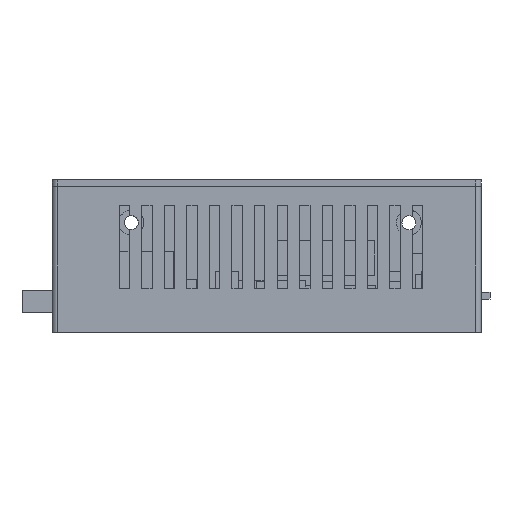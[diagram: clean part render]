
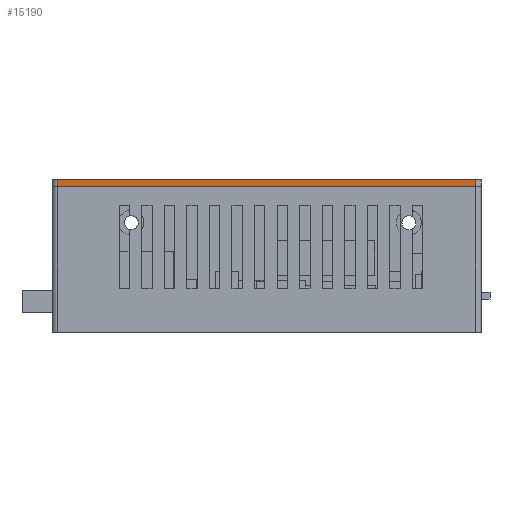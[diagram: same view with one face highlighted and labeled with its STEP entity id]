
A CAD part, left-side view. The second image highlights one B-rep face of the part: STEP entity #15190.
In plain terms, the highlighted planar face has unit normal (-1, 0, 0).
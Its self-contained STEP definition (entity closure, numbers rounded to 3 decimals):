
#12271 = PLANE('',#12272);
#12272 = AXIS2_PLACEMENT_3D('',#12273,#12274,#12275);
#12273 = CARTESIAN_POINT('',(-3.4,-120.8,32.4));
#12274 = DIRECTION('',(0.,0.,1.));
#12275 = DIRECTION('',(1.,0.,0.));
#12433 = EDGE_CURVE('',#12434,#12436,#12438,.T.);
#12434 = VERTEX_POINT('',#12435);
#12435 = CARTESIAN_POINT('',(-3.4,-119.3,32.4));
#12436 = VERTEX_POINT('',#12437);
#12437 = CARTESIAN_POINT('',(-3.4,1.3,32.4));
#12438 = SURFACE_CURVE('',#12439,(#12443,#12450),.PCURVE_S1.);
#12439 = LINE('',#12440,#12441);
#12440 = CARTESIAN_POINT('',(-3.4,-120.8,32.4));
#12441 = VECTOR('',#12442,1.);
#12442 = DIRECTION('',(0.,1.,0.));
#12443 = PCURVE('',#12271,#12444);
#12444 = DEFINITIONAL_REPRESENTATION('',(#12445),#12449);
#12445 = LINE('',#12446,#12447);
#12446 = CARTESIAN_POINT('',(0.,0.));
#12447 = VECTOR('',#12448,1.);
#12448 = DIRECTION('',(0.,1.));
#12449 = ( GEOMETRIC_REPRESENTATION_CONTEXT(2) 
PARAMETRIC_REPRESENTATION_CONTEXT() REPRESENTATION_CONTEXT('2D SPACE',''
  ) );
#12450 = PCURVE('',#12451,#12456);
#12451 = PLANE('',#12452);
#12452 = AXIS2_PLACEMENT_3D('',#12453,#12454,#12455);
#12453 = CARTESIAN_POINT('',(-3.4,-120.8,32.4));
#12454 = DIRECTION('',(1.,0.,0.));
#12455 = DIRECTION('',(0.,0.,1.));
#12456 = DEFINITIONAL_REPRESENTATION('',(#12457),#12461);
#12457 = LINE('',#12458,#12459);
#12458 = CARTESIAN_POINT('',(0.,0.));
#12459 = VECTOR('',#12460,1.);
#12460 = DIRECTION('',(0.,-1.));
#12461 = ( GEOMETRIC_REPRESENTATION_CONTEXT(2) 
PARAMETRIC_REPRESENTATION_CONTEXT() REPRESENTATION_CONTEXT('2D SPACE',''
  ) );
#12480 = CYLINDRICAL_SURFACE('',#12481,1.5);
#12481 = AXIS2_PLACEMENT_3D('',#12482,#12483,#12484);
#12482 = CARTESIAN_POINT('',(-1.9,-119.3,32.4));
#12483 = DIRECTION('',(0.,0.,1.));
#12484 = DIRECTION('',(-1.,-0.,0.));
#14048 = CYLINDRICAL_SURFACE('',#14049,1.5);
#14049 = AXIS2_PLACEMENT_3D('',#14050,#14051,#14052);
#14050 = CARTESIAN_POINT('',(-1.9,1.3,32.4));
#14051 = DIRECTION('',(0.,0.,1.));
#14052 = DIRECTION('',(-1.,-0.,0.));
#15190 = ADVANCED_FACE('',(#15191),#12451,.F.);
#15191 = FACE_BOUND('',#15192,.F.);
#15192 = EDGE_LOOP('',(#15193,#15223,#15244,#15245));
#15193 = ORIENTED_EDGE('',*,*,#15194,.F.);
#15194 = EDGE_CURVE('',#15195,#15197,#15199,.T.);
#15195 = VERTEX_POINT('',#15196);
#15196 = CARTESIAN_POINT('',(-3.4,-119.3,34.4));
#15197 = VERTEX_POINT('',#15198);
#15198 = CARTESIAN_POINT('',(-3.4,1.3,34.4));
#15199 = SURFACE_CURVE('',#15200,(#15204,#15211),.PCURVE_S1.);
#15200 = LINE('',#15201,#15202);
#15201 = CARTESIAN_POINT('',(-3.4,-120.8,34.4));
#15202 = VECTOR('',#15203,1.);
#15203 = DIRECTION('',(0.,1.,0.));
#15204 = PCURVE('',#12451,#15205);
#15205 = DEFINITIONAL_REPRESENTATION('',(#15206),#15210);
#15206 = LINE('',#15207,#15208);
#15207 = CARTESIAN_POINT('',(2.,0.));
#15208 = VECTOR('',#15209,1.);
#15209 = DIRECTION('',(0.,-1.));
#15210 = ( GEOMETRIC_REPRESENTATION_CONTEXT(2) 
PARAMETRIC_REPRESENTATION_CONTEXT() REPRESENTATION_CONTEXT('2D SPACE',''
  ) );
#15211 = PCURVE('',#15212,#15217);
#15212 = PLANE('',#15213);
#15213 = AXIS2_PLACEMENT_3D('',#15214,#15215,#15216);
#15214 = CARTESIAN_POINT('',(-3.4,-120.8,34.4));
#15215 = DIRECTION('',(0.,0.,1.));
#15216 = DIRECTION('',(1.,0.,0.));
#15217 = DEFINITIONAL_REPRESENTATION('',(#15218),#15222);
#15218 = LINE('',#15219,#15220);
#15219 = CARTESIAN_POINT('',(0.,0.));
#15220 = VECTOR('',#15221,1.);
#15221 = DIRECTION('',(0.,1.));
#15222 = ( GEOMETRIC_REPRESENTATION_CONTEXT(2) 
PARAMETRIC_REPRESENTATION_CONTEXT() REPRESENTATION_CONTEXT('2D SPACE',''
  ) );
#15223 = ORIENTED_EDGE('',*,*,#15224,.F.);
#15224 = EDGE_CURVE('',#12434,#15195,#15225,.T.);
#15225 = SURFACE_CURVE('',#15226,(#15230,#15237),.PCURVE_S1.);
#15226 = LINE('',#15227,#15228);
#15227 = CARTESIAN_POINT('',(-3.4,-119.3,32.4));
#15228 = VECTOR('',#15229,1.);
#15229 = DIRECTION('',(0.,0.,1.));
#15230 = PCURVE('',#12451,#15231);
#15231 = DEFINITIONAL_REPRESENTATION('',(#15232),#15236);
#15232 = LINE('',#15233,#15234);
#15233 = CARTESIAN_POINT('',(0.,-1.5));
#15234 = VECTOR('',#15235,1.);
#15235 = DIRECTION('',(1.,0.));
#15236 = ( GEOMETRIC_REPRESENTATION_CONTEXT(2) 
PARAMETRIC_REPRESENTATION_CONTEXT() REPRESENTATION_CONTEXT('2D SPACE',''
  ) );
#15237 = PCURVE('',#12480,#15238);
#15238 = DEFINITIONAL_REPRESENTATION('',(#15239),#15243);
#15239 = LINE('',#15240,#15241);
#15240 = CARTESIAN_POINT('',(0.,0.));
#15241 = VECTOR('',#15242,1.);
#15242 = DIRECTION('',(0.,1.));
#15243 = ( GEOMETRIC_REPRESENTATION_CONTEXT(2) 
PARAMETRIC_REPRESENTATION_CONTEXT() REPRESENTATION_CONTEXT('2D SPACE',''
  ) );
#15244 = ORIENTED_EDGE('',*,*,#12433,.T.);
#15245 = ORIENTED_EDGE('',*,*,#15246,.T.);
#15246 = EDGE_CURVE('',#12436,#15197,#15247,.T.);
#15247 = SURFACE_CURVE('',#15248,(#15252,#15259),.PCURVE_S1.);
#15248 = LINE('',#15249,#15250);
#15249 = CARTESIAN_POINT('',(-3.4,1.3,32.4));
#15250 = VECTOR('',#15251,1.);
#15251 = DIRECTION('',(0.,0.,1.));
#15252 = PCURVE('',#12451,#15253);
#15253 = DEFINITIONAL_REPRESENTATION('',(#15254),#15258);
#15254 = LINE('',#15255,#15256);
#15255 = CARTESIAN_POINT('',(0.,-122.1));
#15256 = VECTOR('',#15257,1.);
#15257 = DIRECTION('',(1.,0.));
#15258 = ( GEOMETRIC_REPRESENTATION_CONTEXT(2) 
PARAMETRIC_REPRESENTATION_CONTEXT() REPRESENTATION_CONTEXT('2D SPACE',''
  ) );
#15259 = PCURVE('',#14048,#15260);
#15260 = DEFINITIONAL_REPRESENTATION('',(#15261),#15265);
#15261 = LINE('',#15262,#15263);
#15262 = CARTESIAN_POINT('',(-0.,0.));
#15263 = VECTOR('',#15264,1.);
#15264 = DIRECTION('',(-0.,1.));
#15265 = ( GEOMETRIC_REPRESENTATION_CONTEXT(2) 
PARAMETRIC_REPRESENTATION_CONTEXT() REPRESENTATION_CONTEXT('2D SPACE',''
  ) );
